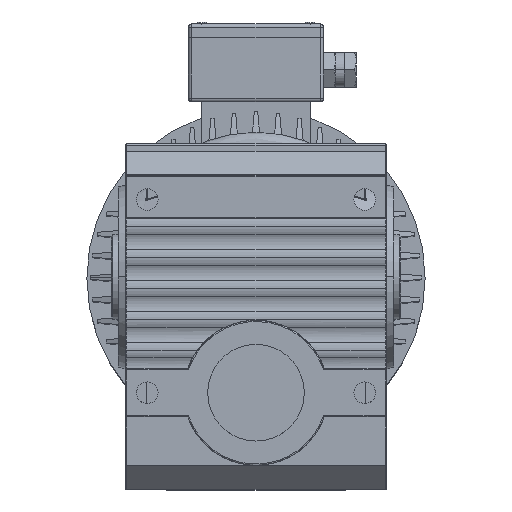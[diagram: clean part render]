
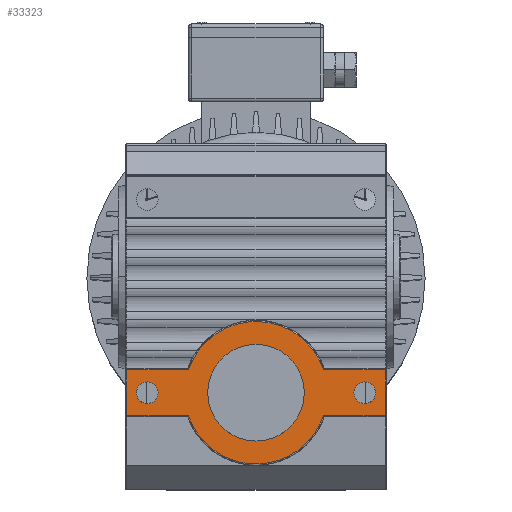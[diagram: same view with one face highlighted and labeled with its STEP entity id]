
A CAD part, top view. The second image highlights one B-rep face of the part: STEP entity #33323.
In plain terms, the highlighted planar face has unit normal (0, 0, 1).
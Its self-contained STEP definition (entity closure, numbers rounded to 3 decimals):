
#186 = LINE ( 'NONE', #25980, #52799 ) ;
#2002 = ORIENTED_EDGE ( 'NONE', *, *, #22102, .F. ) ;
#2035 = CIRCLE ( 'NONE', #57238, 4.5 ) ;
#2162 = DIRECTION ( 'NONE',  ( 1., 0., 0. ) ) ;
#4093 = CIRCLE ( 'NONE', #38947, 4.5 ) ;
#4235 = CARTESIAN_POINT ( 'NONE',  ( 35.382, -41.093, 71.5 ) ) ;
#4251 = EDGE_LOOP ( 'NONE', ( #6966, #7368, #32455, #2002, #31723, #27245, #25623, #42223 ) ) ;
#4287 = DIRECTION ( 'NONE',  ( 0., -1., 0. ) ) ;
#5146 = CARTESIAN_POINT ( 'NONE',  ( -46.046, -22.093, 71.5 ) ) ;
#5883 = EDGE_CURVE ( 'NONE', #45469, #41154, #33715, .T. ) ;
#6358 = DIRECTION ( 'NONE',  ( 1., 0., 0. ) ) ;
#6824 = CARTESIAN_POINT ( 'NONE',  ( -20.475, -22.093, 71.5 ) ) ;
#6966 = ORIENTED_EDGE ( 'NONE', *, *, #9117, .F. ) ;
#7368 = ORIENTED_EDGE ( 'NONE', *, *, #51858, .F. ) ;
#8866 = CARTESIAN_POINT ( 'NONE',  ( 47.954, -31.593, 71.5 ) ) ;
#9117 = EDGE_CURVE ( 'NONE', #15106, #45469, #48474, .T. ) ;
#9620 = EDGE_CURVE ( 'NONE', #46413, #25584, #11017, .T. ) ;
#9707 = EDGE_CURVE ( 'NONE', #33928, #34357, #39382, .T. ) ;
#10195 = VERTEX_POINT ( 'NONE', #55845 ) ;
#10272 = VECTOR ( 'NONE', #12053, 1000. ) ;
#10641 = ORIENTED_EDGE ( 'NONE', *, *, #34754, .T. ) ;
#10964 = CARTESIAN_POINT ( 'NONE',  ( 61.454, -41.093, 71.5 ) ) ;
#11017 = CIRCLE ( 'NONE', #44432, 20. ) ;
#11383 = EDGE_LOOP ( 'NONE', ( #55518, #10641 ) ) ;
#12053 = DIRECTION ( 'NONE',  ( -1., 0., 0. ) ) ;
#12119 = CARTESIAN_POINT ( 'NONE',  ( 35.382, -41.093, 71.5 ) ) ;
#13146 = CARTESIAN_POINT ( 'NONE',  ( -20.475, -41.093, 71.5 ) ) ;
#13339 = CARTESIAN_POINT ( 'NONE',  ( 56.954, -31.593, 71.5 ) ) ;
#13758 = CIRCLE ( 'NONE', #41707, 20. ) ;
#13933 = CARTESIAN_POINT ( 'NONE',  ( 52.454, -31.593, 71.5 ) ) ;
#14471 = LINE ( 'NONE', #17089, #10272 ) ;
#14991 = CARTESIAN_POINT ( 'NONE',  ( 7.454, -31.593, 71.5 ) ) ;
#15106 = VERTEX_POINT ( 'NONE', #13146 ) ;
#15125 = CARTESIAN_POINT ( 'NONE',  ( 7.454, -31.593, 71.5 ) ) ;
#15500 = DIRECTION ( 'NONE',  ( 0., 0., 1. ) ) ;
#16629 = CARTESIAN_POINT ( 'NONE',  ( 61.454, -22.093, 71.5 ) ) ;
#17089 = CARTESIAN_POINT ( 'NONE',  ( 61.454, -41.093, 71.5 ) ) ;
#17545 = ORIENTED_EDGE ( 'NONE', *, *, #9620, .F. ) ;
#19360 = DIRECTION ( 'NONE',  ( 1., 0., 0. ) ) ;
#19986 = DIRECTION ( 'NONE',  ( 0., 0., -1. ) ) ;
#20062 = EDGE_CURVE ( 'NONE', #23397, #10195, #186, .T. ) ;
#20792 = VECTOR ( 'NONE', #29128, 1000. ) ;
#21096 = CARTESIAN_POINT ( 'NONE',  ( -9.534, -73.258, 71.5 ) ) ;
#21503 = VERTEX_POINT ( 'NONE', #12119 ) ;
#21840 = VECTOR ( 'NONE', #30132, 1000. ) ;
#22102 = EDGE_CURVE ( 'NONE', #10195, #38916, #32974, .T. ) ;
#23196 = DIRECTION ( 'NONE',  ( 0., 0., -1. ) ) ;
#23211 = FACE_BOUND ( 'NONE', #32576, .T. ) ;
#23397 = VERTEX_POINT ( 'NONE', #53639 ) ;
#23507 = DIRECTION ( 'NONE',  ( 0., 0., 1. ) ) ;
#24056 = DIRECTION ( 'NONE',  ( 1., 0., 0. ) ) ;
#24368 = DIRECTION ( 'NONE',  ( 0., 0., -1. ) ) ;
#24828 = CARTESIAN_POINT ( 'NONE',  ( -9.534, 10.072, 71.5 ) ) ;
#25016 = CARTESIAN_POINT ( 'NONE',  ( 24.441, 10.072, 71.5 ) ) ;
#25531 = CARTESIAN_POINT ( 'NONE',  ( -20.475, -41.093, 71.5 ) ) ;
#25584 = VERTEX_POINT ( 'NONE', #38561 ) ;
#25623 = ORIENTED_EDGE ( 'NONE', *, *, #29095, .F. ) ;
#25980 = CARTESIAN_POINT ( 'NONE',  ( 61.454, -22.093, 71.5 ) ) ;
#26558 = CARTESIAN_POINT ( 'NONE',  ( 60.954, -70.593, 71.5 ) ) ;
#27245 = ORIENTED_EDGE ( 'NONE', *, *, #52633, .F. ) ;
#27642 = DIRECTION ( 'NONE',  ( -1., 0., 0. ) ) ;
#28101 = CIRCLE ( 'NONE', #50052, 4.5 ) ;
#28544 = VERTEX_POINT ( 'NONE', #41943 ) ;
#28691 = CARTESIAN_POINT ( 'NONE',  ( -37.546, -31.593, 71.5 ) ) ;
#28724 = FACE_OUTER_BOUND ( 'NONE', #4251, .T. ) ;
#28793 = AXIS2_PLACEMENT_3D ( 'NONE', #33090, #19986, #28860 ) ;
#28860 = DIRECTION ( 'NONE',  ( 1., 0., 0. ) ) ;
#28872 = CARTESIAN_POINT ( 'NONE',  ( 35.382, -22.093, 71.5 ) ) ;
#29095 = EDGE_CURVE ( 'NONE', #41154, #28544, #50856, .T. ) ;
#29128 = DIRECTION ( 'NONE',  ( -1., 0., 0. ) ) ;
#29811 = CARTESIAN_POINT ( 'NONE',  ( -33.046, -31.593, 71.5 ) ) ;
#29864 = ORIENTED_EDGE ( 'NONE', *, *, #41860, .F. ) ;
#30132 = DIRECTION ( 'NONE',  ( 1., 0., 0. ) ) ;
#31150 =( BOUNDED_CURVE ( )  B_SPLINE_CURVE ( 3, ( #4235, #39069, #21096, #25531 ),
 .UNSPECIFIED., .F., .F. ) 
 B_SPLINE_CURVE_WITH_KNOTS ( ( 4, 4 ),
 ( 0., 1. ),
 .UNSPECIFIED. ) 
 CURVE ( )  GEOMETRIC_REPRESENTATION_ITEM ( )  RATIONAL_B_SPLINE_CURVE ( ( 1., 0.548, 0.548, 1. ) ) 
 REPRESENTATION_ITEM ( '' )  );
#31653 = DIRECTION ( 'NONE',  ( 1., 0., 0. ) ) ;
#31723 = ORIENTED_EDGE ( 'NONE', *, *, #20062, .F. ) ;
#31778 = VERTEX_POINT ( 'NONE', #8866 ) ;
#32134 = EDGE_LOOP ( 'NONE', ( #47939, #52890 ) ) ;
#32144 = FACE_BOUND ( 'NONE', #32134, .T. ) ;
#32455 = ORIENTED_EDGE ( 'NONE', *, *, #45428, .F. ) ;
#32576 = EDGE_LOOP ( 'NONE', ( #29864, #17545 ) ) ;
#32974 = LINE ( 'NONE', #26558, #52351 ) ;
#33090 = CARTESIAN_POINT ( 'NONE',  ( -37.546, -31.593, 71.5 ) ) ;
#33323 = ADVANCED_FACE ( 'NONE', ( #23211, #32144, #40546, #28724 ), #40237, .F. ) ;
#33487 = DIRECTION ( 'NONE',  ( 0., 0., -1. ) ) ;
#33535 = CARTESIAN_POINT ( 'NONE',  ( 60.954, -41.093, 71.5 ) ) ;
#33715 = LINE ( 'NONE', #33751, #41405 ) ;
#33751 = CARTESIAN_POINT ( 'NONE',  ( -46.046, -39.593, 71.5 ) ) ;
#33928 = VERTEX_POINT ( 'NONE', #34104 ) ;
#34104 = CARTESIAN_POINT ( 'NONE',  ( -42.046, -31.593, 71.5 ) ) ;
#34158 = CARTESIAN_POINT ( 'NONE',  ( -12.546, -31.593, 71.5 ) ) ;
#34357 = VERTEX_POINT ( 'NONE', #29811 ) ;
#34754 = EDGE_CURVE ( 'NONE', #31778, #50948, #2035, .T. ) ;
#38012 = EDGE_CURVE ( 'NONE', #50948, #31778, #28101, .T. ) ;
#38561 = CARTESIAN_POINT ( 'NONE',  ( 27.454, -31.593, 71.5 ) ) ;
#38916 = VERTEX_POINT ( 'NONE', #33535 ) ;
#38947 = AXIS2_PLACEMENT_3D ( 'NONE', #28691, #33487, #2162 ) ;
#39069 = CARTESIAN_POINT ( 'NONE',  ( 24.441, -73.258, 71.5 ) ) ;
#39382 = CIRCLE ( 'NONE', #28793, 4.5 ) ;
#39874 = DIRECTION ( 'NONE',  ( 0., 0., -1. ) ) ;
#40237 = PLANE ( 'NONE',  #45711 ) ;
#40546 = FACE_BOUND ( 'NONE', #11383, .T. ) ;
#41154 = VERTEX_POINT ( 'NONE', #5146 ) ;
#41405 = VECTOR ( 'NONE', #42706, 1000. ) ;
#41707 = AXIS2_PLACEMENT_3D ( 'NONE', #15125, #15500, #19360 ) ;
#41860 = EDGE_CURVE ( 'NONE', #25584, #46413, #13758, .T. ) ;
#41943 = CARTESIAN_POINT ( 'NONE',  ( -20.475, -22.093, 71.5 ) ) ;
#42223 = ORIENTED_EDGE ( 'NONE', *, *, #5883, .F. ) ;
#42554 =( BOUNDED_CURVE ( )  B_SPLINE_CURVE ( 3, ( #6824, #24828, #25016, #28872 ),
 .UNSPECIFIED., .F., .F. ) 
 B_SPLINE_CURVE_WITH_KNOTS ( ( 4, 4 ),
 ( 0., 1. ),
 .UNSPECIFIED. ) 
 CURVE ( )  GEOMETRIC_REPRESENTATION_ITEM ( )  RATIONAL_B_SPLINE_CURVE ( ( 1., 0.548, 0.548, 1. ) ) 
 REPRESENTATION_ITEM ( '' )  );
#42706 = DIRECTION ( 'NONE',  ( 0., 1., 0. ) ) ;
#44373 = DIRECTION ( 'NONE',  ( 1., 0., 0. ) ) ;
#44432 = AXIS2_PLACEMENT_3D ( 'NONE', #14991, #23507, #24056 ) ;
#45272 = EDGE_CURVE ( 'NONE', #34357, #33928, #4093, .T. ) ;
#45428 = EDGE_CURVE ( 'NONE', #38916, #21503, #14471, .T. ) ;
#45469 = VERTEX_POINT ( 'NONE', #51659 ) ;
#45641 = CARTESIAN_POINT ( 'NONE',  ( 61.454, -39.593, 71.5 ) ) ;
#45711 = AXIS2_PLACEMENT_3D ( 'NONE', #45641, #23196, #27642 ) ;
#46413 = VERTEX_POINT ( 'NONE', #34158 ) ;
#47939 = ORIENTED_EDGE ( 'NONE', *, *, #45272, .T. ) ;
#48474 = LINE ( 'NONE', #10964, #20792 ) ;
#50052 = AXIS2_PLACEMENT_3D ( 'NONE', #13933, #39874, #31653 ) ;
#50804 = CARTESIAN_POINT ( 'NONE',  ( 52.454, -31.593, 71.5 ) ) ;
#50856 = LINE ( 'NONE', #16629, #21840 ) ;
#50948 = VERTEX_POINT ( 'NONE', #13339 ) ;
#51659 = CARTESIAN_POINT ( 'NONE',  ( -46.046, -41.093, 71.5 ) ) ;
#51858 = EDGE_CURVE ( 'NONE', #21503, #15106, #31150, .T. ) ;
#52351 = VECTOR ( 'NONE', #4287, 1000. ) ;
#52633 = EDGE_CURVE ( 'NONE', #28544, #23397, #42554, .T. ) ;
#52799 = VECTOR ( 'NONE', #44373, 1000. ) ;
#52890 = ORIENTED_EDGE ( 'NONE', *, *, #9707, .T. ) ;
#53639 = CARTESIAN_POINT ( 'NONE',  ( 35.382, -22.093, 71.5 ) ) ;
#55518 = ORIENTED_EDGE ( 'NONE', *, *, #38012, .T. ) ;
#55845 = CARTESIAN_POINT ( 'NONE',  ( 60.954, -22.093, 71.5 ) ) ;
#57238 = AXIS2_PLACEMENT_3D ( 'NONE', #50804, #24368, #6358 ) ;
